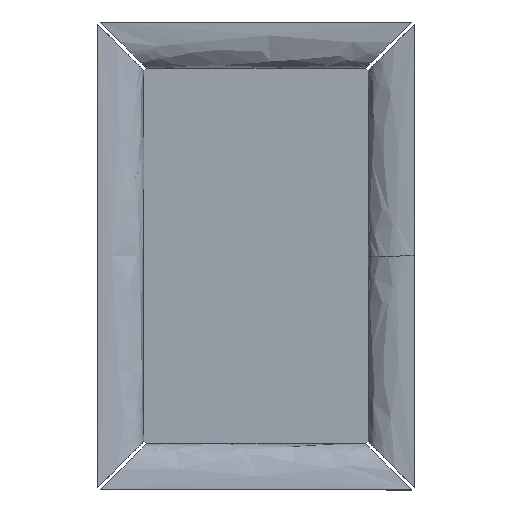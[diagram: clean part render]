
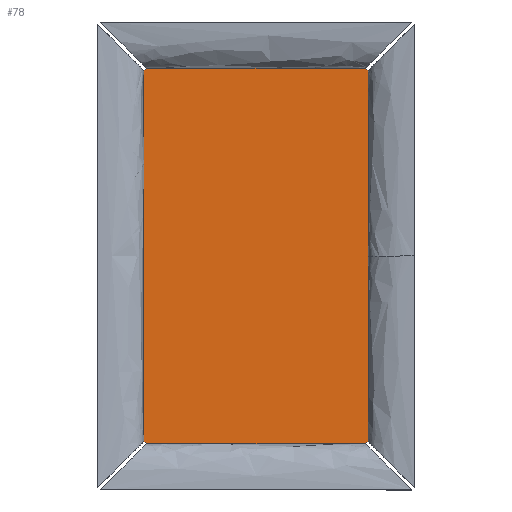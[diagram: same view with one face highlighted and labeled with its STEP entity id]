
A CAD part, top view. The second image highlights one B-rep face of the part: STEP entity #78.
In plain terms, the highlighted planar face has unit normal (0, 0, 1).
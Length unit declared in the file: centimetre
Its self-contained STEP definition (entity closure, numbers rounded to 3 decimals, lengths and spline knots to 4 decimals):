
#78=ADVANCED_FACE($,(#140),#772,.T.);
#140=FACE_OUTER_BOUND($,#202,.T.);
#202=EDGE_LOOP($,(#454,#455,#456,#457,#458,#459,#460,#461));
#454=ORIENTED_EDGE($,*,*,#608,.T.);
#455=ORIENTED_EDGE($,*,*,#622,.T.);
#456=ORIENTED_EDGE($,*,*,#621,.T.);
#457=ORIENTED_EDGE($,*,*,#620,.T.);
#458=ORIENTED_EDGE($,*,*,#619,.T.);
#459=ORIENTED_EDGE($,*,*,#618,.T.);
#460=ORIENTED_EDGE($,*,*,#617,.T.);
#461=ORIENTED_EDGE($,*,*,#616,.T.);
#608=EDGE_CURVE($,#703,#717,#898,.T.);
#616=EDGE_CURVE($,#711,#703,#906,.T.);
#617=EDGE_CURVE($,#712,#711,#907,.T.);
#618=EDGE_CURVE($,#713,#712,#908,.T.);
#619=EDGE_CURVE($,#714,#713,#909,.T.);
#620=EDGE_CURVE($,#715,#714,#910,.T.);
#621=EDGE_CURVE($,#716,#715,#911,.T.);
#622=EDGE_CURVE($,#717,#716,#912,.T.);
#703=VERTEX_POINT($,#3511);
#711=VERTEX_POINT($,#3519);
#712=VERTEX_POINT($,#3520);
#713=VERTEX_POINT($,#3521);
#714=VERTEX_POINT($,#3522);
#715=VERTEX_POINT($,#3523);
#716=VERTEX_POINT($,#3524);
#717=VERTEX_POINT($,#3525);
#772=PLANE($,#1018);
#898=B_SPLINE_CURVE_WITH_KNOTS($,1,(#3456,#3457),.UNSPECIFIED.,.F.,.F.,(2,
2),(468.6521,469.8542),.UNSPECIFIED.);
#906=B_SPLINE_CURVE_WITH_KNOTS($,1,(#3472,#3473),.UNSPECIFIED.,.F.,.F.,(2,
2),(790.3604,862.6604),.UNSPECIFIED.);
#907=B_SPLINE_CURVE_WITH_KNOTS($,1,(#3474,#3475),.UNSPECIFIED.,.F.,.F.,(2,
2),(789.1583,790.3604),.UNSPECIFIED.);
#908=B_SPLINE_CURVE_WITH_KNOTS($,1,(#3476,#3477),.UNSPECIFIED.,.F.,.F.,(2,
2),(666.8583,789.1583),.UNSPECIFIED.);
#909=B_SPLINE_CURVE_WITH_KNOTS($,1,(#3478,#3479),.UNSPECIFIED.,.F.,.F.,(2,
2),(665.6562,666.8583),.UNSPECIFIED.);
#910=B_SPLINE_CURVE_WITH_KNOTS($,1,(#3480,#3481),.UNSPECIFIED.,.F.,.F.,(2,
2),(593.3562,665.6562),.UNSPECIFIED.);
#911=B_SPLINE_CURVE_WITH_KNOTS($,1,(#3482,#3483),.UNSPECIFIED.,.F.,.F.,(2,
2),(592.1542,593.3562),.UNSPECIFIED.);
#912=B_SPLINE_CURVE_WITH_KNOTS($,1,(#3484,#3485),.UNSPECIFIED.,.F.,.F.,(2,
2),(469.8542,592.1542),.UNSPECIFIED.);
#1018=AXIS2_PLACEMENT_3D($,#3502,#1039,$);
#1039=DIRECTION($,(0.,0.,1.));
#3456=CARTESIAN_POINT($,(73.15,0.,3.6));
#3457=CARTESIAN_POINT($,(74.,0.85,3.6));
#3472=CARTESIAN_POINT($,(0.85,0.,3.6));
#3473=CARTESIAN_POINT($,(73.15,0.,3.6));
#3474=CARTESIAN_POINT($,(0.,0.85,3.6));
#3475=CARTESIAN_POINT($,(0.85,0.,3.6));
#3476=CARTESIAN_POINT($,(0.,123.15,3.6));
#3477=CARTESIAN_POINT($,(0.,0.85,3.6));
#3478=CARTESIAN_POINT($,(0.85,124.,3.6));
#3479=CARTESIAN_POINT($,(0.,123.15,3.6));
#3480=CARTESIAN_POINT($,(73.15,124.,3.6));
#3481=CARTESIAN_POINT($,(0.85,124.,3.6));
#3482=CARTESIAN_POINT($,(74.,123.15,3.6));
#3483=CARTESIAN_POINT($,(73.15,124.,3.6));
#3484=CARTESIAN_POINT($,(74.,0.85,3.6));
#3485=CARTESIAN_POINT($,(74.,123.15,3.6));
#3502=CARTESIAN_POINT($,(0.,0.,3.6));
#3511=CARTESIAN_POINT($,(73.15,0.,3.6));
#3519=CARTESIAN_POINT($,(0.85,0.,3.6));
#3520=CARTESIAN_POINT($,(0.,0.85,3.6));
#3521=CARTESIAN_POINT($,(0.,123.15,3.6));
#3522=CARTESIAN_POINT($,(0.85,124.,3.6));
#3523=CARTESIAN_POINT($,(73.15,124.,3.6));
#3524=CARTESIAN_POINT($,(74.,123.15,3.6));
#3525=CARTESIAN_POINT($,(74.,0.85,3.6));
